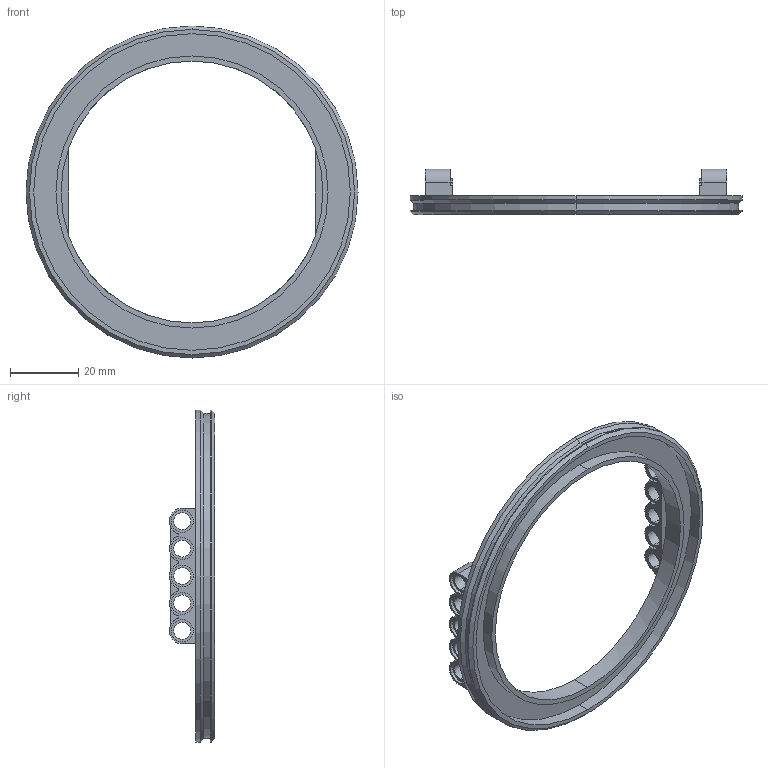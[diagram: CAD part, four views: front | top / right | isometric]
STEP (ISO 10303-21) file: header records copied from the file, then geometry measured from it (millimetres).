
FILE_DESCRIPTION (( 'STEP AP214' ), '1' );
FILE_NAME ('Turntable XXL Bottom.STP', '2021-12-28T09:26:04', ( '' ), ( '' ), 'SwSTEP 2.0', 'SolidWorks 2021', '' );
FILE_SCHEMA (( 'AUTOMOTIVE_DESIGN' ));
Length unit declared in the file: millimetre
Products named in the file (1): Turntable XXL Bottom
Bounding box: 97 x 13.3 x 97 mm (x, y, z)
Volume: 10989.9 mm3; surface area: 13149.4 mm2
Topology: 1 solids, 1 shells, 171 faces, 462 edges, 306 vertices
Faces by surface type: plane 95, cylinder 72, cone 4
Entity records: 5508 total; most frequent: DIRECTION 988, CARTESIAN_POINT 940, ORIENTED_EDGE 924, EDGE_CURVE 462, AXIS2_PLACEMENT_3D 354, VERTEX_POINT 306, VECTOR 280, LINE 280
